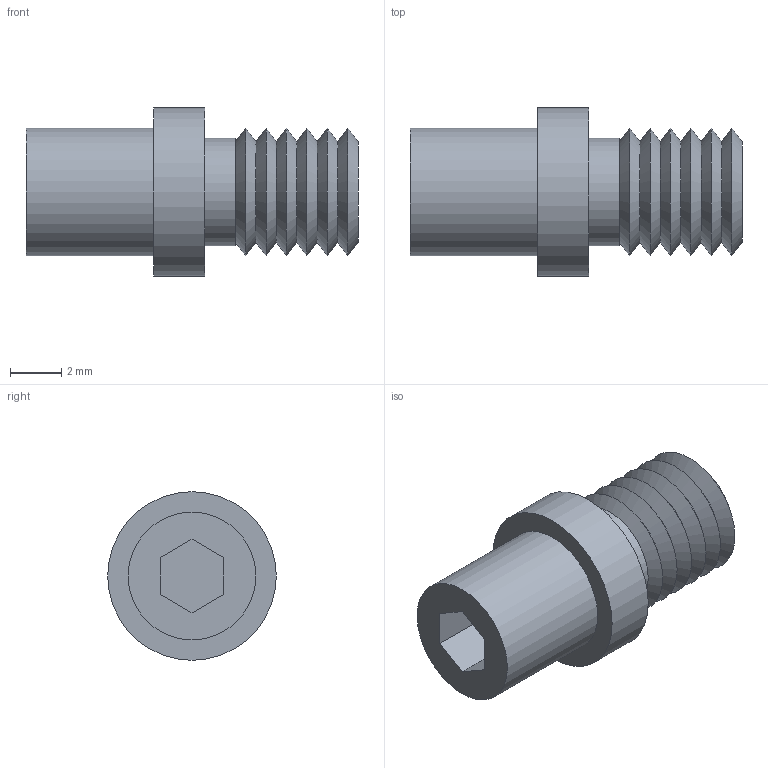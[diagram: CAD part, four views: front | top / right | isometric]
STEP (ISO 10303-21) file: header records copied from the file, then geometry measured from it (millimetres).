
FILE_DESCRIPTION((''),'1');
FILE_NAME('H:/図庫/国内ﾕﾆｯﾄ/ﾓﾉﾀﾛｳ/ホームページ用CAD図/ネジ付き', '2020-04-29T02:40:24',(''), (''), 'KCM Version 1.1.1442.0', 'Kubotek KeyCreator', '');
FILE_SCHEMA(('AUTOMOTIVE_DESIGN'));
Length unit declared in the file: millimetre
Bounding box: 13 x 6.6 x 6.6 mm (x, y, z)
Surface area: 338.2 mm2 (no closed solid volume)
Topology: 0 solids, 27 shells, 27 faces, 89 edges, 74 vertices
Faces by surface type: plane 12, cone 12, cylinder 3
Full cylindrical faces by diameter (mm): 4.2 x1, 5 x1, 6.6 x1
Entity records: 1035 total; most frequent: CARTESIAN_POINT 191, DIRECTION 183, ORIENTED_EDGE 104, EDGE_CURVE 89, VERTEX_POINT 74, AXIS2_PLACEMENT_3D 66, VECTOR 51, LINE 51
